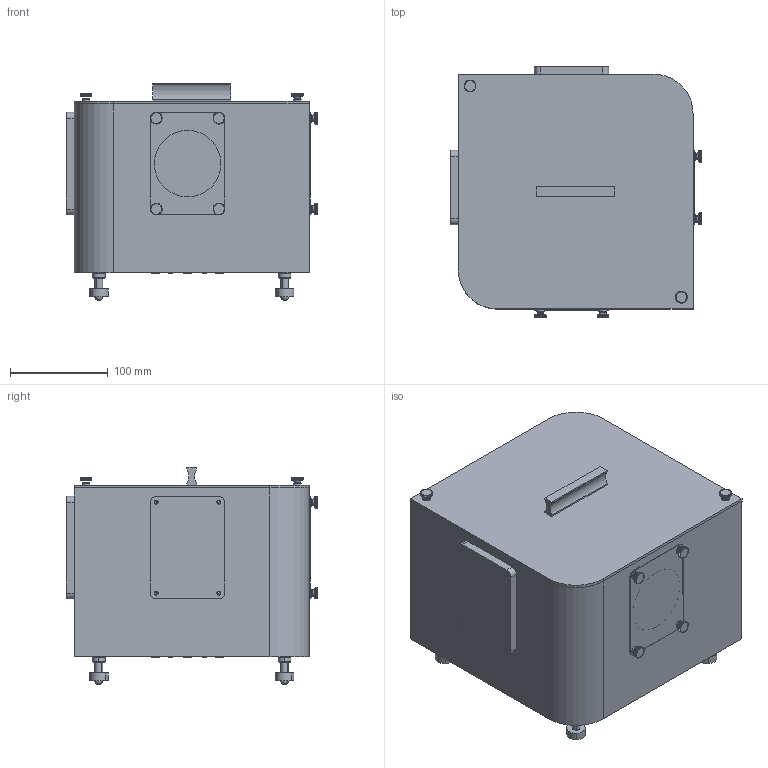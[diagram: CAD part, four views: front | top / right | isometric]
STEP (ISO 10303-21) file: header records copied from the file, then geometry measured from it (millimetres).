
FILE_DESCRIPTION (( 'STEP AP203' ), '1' );
FILE_NAME ('7ISC1嗣髡夔欴こ弅.STEP', '2020-02-19T08:16:06', ( '' ), ( '' ), 'SwSTEP 2.0', 'SolidWorks 2018', '' );
FILE_SCHEMA (( 'CONFIG_CONTROL_DESIGN' ));
Length unit declared in the file: millimetre
Products named in the file (1): 7ISC1嗣髡夔欴こ弅
Bounding box: 257.37 x 257.37 x 222 mm (x, y, z)
Surface area: 318089.1 mm2 (no closed solid volume)
Topology: 0 solids, 203 shells, 962 faces, 3487 edges, 2498 vertices
Faces by surface type: plane 562, cylinder 292, cone 70, sphere 24, torus 14
Entity records: 36490 total; most frequent: CARTESIAN_POINT 6924, DIRECTION 6725, ORIENTED_EDGE 4686, EDGE_CURVE 3471, VERTEX_POINT 2490, AXIS2_PLACEMENT_3D 2291, LINE 2143, VECTOR 2143
